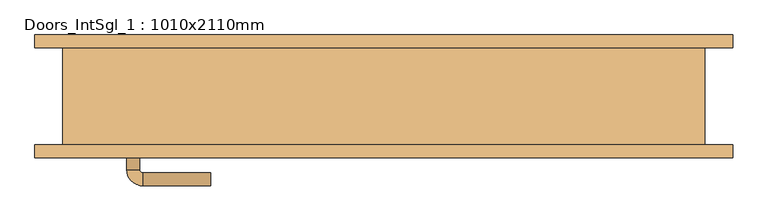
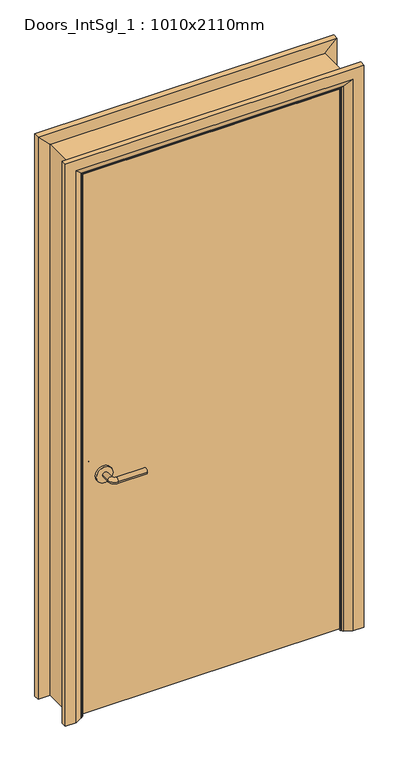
"""IFC4 building model written with IfcOpenShell, lengths in millimetres: door geometry, Doors_IntSgl_1 : 1010x2110mm."""

from ifc_helpers import new_model, si_unit, point, frame, frame_2d, origin, place, context, project, spatial, polyline, circle_curve, ellipse_curve, trimmed, segment, composite_curve, outline, extrude, faceted_brep, source, transform, mapped, element, save
from ifc_brep_helpers import plane_surface, cylinder_surface, revolved_surface, advanced_brep


def doors_intsgl_1_1010x2110mm_7920e6b8(model_context):
    return source(origin(), model_context, "Body", "SolidModel", [
        advanced_brep(
        [(-398.0, -29.0, 900.0), (-378.0, -29.0, 900.0), (-398.0, 1.0, 900.0), (-378.0, 1.0, 900.0), (-373.0, 6.0, 900.0), (-373.0, 26.0, 900.0), (-268.0, 26.0, 900.0), (-268.0, 6.0, 900.0)],
        [
            (0, 1, circle_curve(frame((-388.0, -29.0, 900.0), z_axis=(0.0, -1.0, 0.0), x_axis=(1.0, 0.0, 0.0)), 10.0)),
            (1, 0, circle_curve(frame((-388.0, -29.0, 900.0), z_axis=(0.0, -1.0, 0.0), x_axis=(1.0, 0.0, 0.0)), 10.0)),
            (0, 2),
            (2, 3, circle_curve(frame((-388.0, 1.0, 900.0), z_axis=(0.0, -1.0, 0.0), x_axis=(1.0, 0.0, 0.0)), 10.0)),
            (3, 1),
            (3, 2, circle_curve(frame((-388.0, 1.0, 900.0), z_axis=(0.0, -1.0, 0.0), x_axis=(1.0, 0.0, 0.0)), 10.0)),
            (4, 3, circle_curve(frame((-373.0, 1.0, 900.0), z_axis=(0.0, 0.0, 1.0), x_axis=(-1.0, 0.0, 0.0)), 5.0)),
            (2, 5, circle_curve(frame((-373.0, 1.0, 900.0), z_axis=(0.0, 0.0, -1.0), x_axis=(-1.0, 0.0, 0.0)), 25.0)),
            (5, 4, circle_curve(frame((-373.0, 16.0, 900.0), z_axis=(-1.0, 0.0, 0.0), x_axis=(0.0, -1.0, 0.0)), 10.0)),
            (4, 5, circle_curve(frame((-373.0, 16.0, 900.0), z_axis=(-1.0, 0.0, 0.0), x_axis=(0.0, -1.0, 0.0)), 10.0)),
            (6, 7, circle_curve(frame((-268.0, 16.0, 900.0), z_axis=(1.0, 0.0, 0.0), x_axis=(0.0, -1.0, 0.0)), 10.0)),
            (7, 6, circle_curve(frame((-268.0, 16.0, 900.0), z_axis=(1.0, 0.0, 0.0), x_axis=(0.0, -1.0, 0.0)), 10.0)),
            (5, 6),
            (7, 4),
        ],
        [
            plane_surface(frame((-388.0, -29.0, 900.0), z_axis=(0.0, -1.0, 0.0), x_axis=(0.0, 0.0, 1.0))),
            cylinder_surface(frame((-388.0, -29.0, 900.0), z_axis=(0.0, -1.0, 0.0), x_axis=(1.0, 0.0, 0.0)), 10.0),
            revolved_surface(trimmed(ellipse_curve(frame((-388.0, 1.0, 900.0), z_axis=(0.0, -1.0, 0.0), x_axis=(1.0, 0.0, 0.0)), 10.0, 10.0), [point((-398.0, 1.0, 900.0))], [point((-378.0, 1.0, 900.0))], True, "CARTESIAN"), (-373.0, 1.0, 900.0), (0.0, 0.0, -1.0)),
            revolved_surface(trimmed(ellipse_curve(frame((-388.0, 1.0, 900.0), z_axis=(0.0, -1.0, 0.0), x_axis=(1.0, 0.0, 0.0)), 10.0, 10.0), [point((-378.0, 1.0, 900.0))], [point((-398.0, 1.0, 900.0))], True, "CARTESIAN"), (-373.0, 1.0, 900.0), (0.0, 0.0, -1.0)),
            plane_surface(frame((-268.0, 16.0, 900.0), z_axis=(1.0, 0.0, 0.0), x_axis=(0.0, 0.0, 1.0))),
            cylinder_surface(frame((-373.0, 16.0, 900.0), z_axis=(-1.0, 0.0, 0.0), x_axis=(0.0, -1.0, 0.0)), 10.0),
        ],
        [
            (0, [[1, 2]]),
            (1, [[-1, 3, 4, 5]]),
            (1, [[-2, -5, 6, -3]]),
            (2, [[7, -4, 8, 9]]),
            (3, [[-8, -6, -7, 10]]),
            (4, [[11, 12]]),
            (5, [[-9, 13, -12, 14]]),
            (5, [[-10, -14, -11, -13]]),
        ],
    ),
        extrude(outline(composite_curve([segment(trimmed(circle_curve(frame_2d((900.0, -390.5)), 30.0), [point((900.0, -420.5))], [point((900.0, -360.5))], False, "CARTESIAN"), True, "CONTINUOUS"), segment(trimmed(circle_curve(frame_2d((900.0, -390.5)), 30.0), [point((900.0, -360.5))], [point((900.0, -420.5))], False, "CARTESIAN"), True, "CONTINUOUS")], self_intersect=False)), frame((0.0, -37.0, 0.0), z_axis=(0.0, 1.0, 0.0), x_axis=(0.0, 0.0, 1.0)), (0.0, 0.0, 1.0), 8.0),
        advanced_brep(
        [(-398.0, -83.0, 900.0), (-378.0, -83.0, 900.0), (-378.0, -113.0, 900.0), (-398.0, -113.0, 900.0), (-373.0, -118.0, 900.0), (-373.0, -138.0, 900.0), (-268.0, -138.0, 900.0), (-268.0, -118.0, 900.0)],
        [
            (0, 1, circle_curve(frame((-388.0, -83.0, 900.0), z_axis=(0.0, 1.0, 0.0), x_axis=(1.0, 0.0, 0.0)), 10.0)),
            (1, 0, circle_curve(frame((-388.0, -83.0, 900.0), z_axis=(0.0, 1.0, 0.0), x_axis=(1.0, 0.0, 0.0)), 10.0)),
            (1, 2),
            (2, 3, circle_curve(frame((-388.0, -113.0, 900.0), z_axis=(0.0, 1.0, 0.0), x_axis=(1.0, 0.0, 0.0)), 10.0)),
            (3, 0),
            (3, 2, circle_curve(frame((-388.0, -113.0, 900.0), z_axis=(0.0, 1.0, 0.0), x_axis=(1.0, 0.0, 0.0)), 10.0)),
            (4, 5, circle_curve(frame((-373.0, -128.0, 900.0), z_axis=(-1.0, 0.0, 0.0), x_axis=(0.0, 1.0, 0.0)), 10.0)),
            (5, 3, circle_curve(frame((-373.0, -113.0, 900.0), z_axis=(0.0, 0.0, -1.0), x_axis=(-1.0, 0.0, 0.0)), 25.0)),
            (2, 4, circle_curve(frame((-373.0, -113.0, 900.0), z_axis=(0.0, 0.0, 1.0), x_axis=(-1.0, 0.0, 0.0)), 5.0)),
            (5, 4, circle_curve(frame((-373.0, -128.0, 900.0), z_axis=(-1.0, 0.0, 0.0), x_axis=(0.0, 1.0, 0.0)), 10.0)),
            (6, 7, circle_curve(frame((-268.0, -128.0, 900.0), z_axis=(1.0, 0.0, 0.0), x_axis=(0.0, 1.0, 0.0)), 10.0)),
            (7, 6, circle_curve(frame((-268.0, -128.0, 900.0), z_axis=(1.0, 0.0, 0.0), x_axis=(0.0, 1.0, 0.0)), 10.0)),
            (4, 7),
            (6, 5),
        ],
        [
            plane_surface(frame((-388.0, -83.0, 900.0), z_axis=(0.0, 1.0, 0.0), x_axis=(0.0, 0.0, 1.0))),
            cylinder_surface(frame((-388.0, -83.0, 900.0), z_axis=(0.0, 1.0, 0.0), x_axis=(1.0, 0.0, 0.0)), 10.0),
            revolved_surface(trimmed(ellipse_curve(frame((-388.0, -113.0, 900.0), z_axis=(0.0, -1.0, 0.0), x_axis=(1.0, 0.0, 0.0)), 10.0, 10.0), [point((-398.0, -113.0, 900.0))], [point((-378.0, -113.0, 900.0))], True, "CARTESIAN"), (-373.0, -113.0, 900.0), (0.0, 0.0, -1.0)),
            revolved_surface(trimmed(ellipse_curve(frame((-388.0, -113.0, 900.0), z_axis=(0.0, -1.0, 0.0), x_axis=(1.0, 0.0, 0.0)), 10.0, 10.0), [point((-378.0, -113.0, 900.0))], [point((-398.0, -113.0, 900.0))], True, "CARTESIAN"), (-373.0, -113.0, 900.0), (0.0, 0.0, -1.0)),
            plane_surface(frame((-268.0, -128.0, 900.0), z_axis=(1.0, 0.0, 0.0), x_axis=(0.0, 0.0, 1.0))),
            cylinder_surface(frame((-373.0, -128.0, 900.0), z_axis=(-1.0, 0.0, 0.0), x_axis=(0.0, 1.0, 0.0)), 10.0),
        ],
        [
            (0, [[1, 2]]),
            (1, [[3, 4, 5, -2]]),
            (1, [[-5, 6, -3, -1]]),
            (2, [[7, 8, -4, 9]]),
            (3, [[10, -9, -6, -8]]),
            (4, [[11, 12]]),
            (5, [[13, -11, 14, -7]]),
            (5, [[-14, -12, -13, -10]]),
        ],
    ),
        extrude(outline(composite_curve([segment(trimmed(circle_curve(frame_2d((900.0, -390.5)), 30.0), [point((900.0, -420.5))], [point((900.0, -360.5))], False, "CARTESIAN"), True, "CONTINUOUS"), segment(trimmed(circle_curve(frame_2d((900.0, -390.5)), 30.0), [point((900.0, -360.5))], [point((900.0, -420.5))], False, "CARTESIAN"), True, "CONTINUOUS")], self_intersect=False)), frame((0.0, -83.0, 0.0), z_axis=(0.0, 1.0, 0.0), x_axis=(0.0, 0.0, 1.0)), (0.0, 0.0, 1.0), 8.0),
        extrude(outline(polyline([(463.0, -37.0), (463.0, -75.0), (-463.0, -75.0), (-463.0, -37.0), (463.0, -37.0)])), frame((0.0, 0.0, 8.0), z_axis=(0.0, 0.0, 1.0), x_axis=(1.0, 0.0, 0.0)), (0.0, 0.0, 1.0), 2060.0),
        advanced_brep(
        [(540.0, -95.0, 0.0), (500.0, -95.0, 0.0), (474.0, -81.0, 0.0), (470.0, -75.0, 0.0), (540.0, -75.0, 0.0), (540.0, -75.0, 2145.0), (540.0, -95.0, 2145.0), (470.0, -75.0, 2075.0), (-470.0, -75.0, 2075.0), (-470.0, -75.0, 0.0), (-540.0, -75.0, 0.0), (-540.0, -75.0, 2145.0), (474.0, -81.0, 2079.0), (500.0, -95.0, 2105.0), (-540.0, -95.0, 2145.0), (-540.0, -95.0, 0.0), (-500.0, -95.0, 0.0), (-500.0, -95.0, 2105.0), (-474.0, -81.0, 0.0), (-474.0, -81.0, 2079.0)],
        [
            (0, 1),
            (1, 2),
            (2, 3, circle_curve(frame((478.0, -74.0, 0.0), z_axis=(0.0, 0.0, -1.0), x_axis=(1.0, 0.0, 0.0)), 8.0622577)),
            (3, 4),
            (4, 0),
            (4, 5),
            (5, 6),
            (6, 0),
            (3, 7),
            (7, 8),
            (8, 9),
            (9, 10),
            (10, 11),
            (11, 5),
            (2, 12),
            (12, 7, ellipse_curve(frame((478.0, -74.0, 2083.0), z_axis=(0.7071067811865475, 0.0, -0.7071067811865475), x_axis=(-0.7071067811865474, 0.0, -0.7071067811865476)), 11.4017543, 8.0622577)),
            (1, 13),
            (13, 12),
            (6, 14),
            (14, 15),
            (15, 16),
            (16, 17),
            (17, 13),
            (10, 15),
            (14, 11),
            (9, 18, circle_curve(frame((-478.0, -74.0, 0.0), z_axis=(0.0, 0.0, -1.0), x_axis=(-1.0, 0.0, 0.0)), 8.0622577)),
            (18, 16),
            (19, 18),
            (8, 19, ellipse_curve(frame((-478.0, -74.0, 2083.0), z_axis=(-0.7071067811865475, 0.0, -0.7071067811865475), x_axis=(-0.7071067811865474, 0.0, 0.7071067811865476)), 11.4017543, 8.0622577)),
            (19, 17),
            (12, 19),
        ],
        [
            plane_surface(frame((470.0, -75.0, 0.0), z_axis=(0.0, 0.0, -1.0), x_axis=(0.0, 1.0, 0.0))),
            plane_surface(frame((540.0, -95.0, 0.0), z_axis=(1.0, 0.0, 0.0), x_axis=(0.0, 0.0, 1.0))),
            plane_surface(frame((540.0, -75.0, 0.0), z_axis=(0.0, 1.0, 0.0), x_axis=(0.0, 0.0, 1.0))),
            cylinder_surface(frame((478.0, -74.0, 0.0), z_axis=(0.0, 0.0, -1.0), x_axis=(1.0, 0.0, 0.0)), 8.0622577),
            plane_surface(frame((474.0, -81.0, 0.0), z_axis=(-0.4740998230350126, -0.880471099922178, 0.0), x_axis=(0.0, 0.0, 1.0))),
            plane_surface(frame((500.0, -95.0, 0.0), z_axis=(0.0, -1.0, 0.0), x_axis=(0.0, 0.0, 1.0))),
            plane_surface(frame((-540.0, -95.0, 2145.0), z_axis=(-1.0, 0.0, 0.0), x_axis=(0.0, 0.0, -1.0))),
            plane_surface(frame((-470.0, -75.0, 0.0), z_axis=(0.0, 0.0, -1.0), x_axis=(0.0, 1.0, 0.0))),
            cylinder_surface(frame((-478.0, -74.0, 2075.0), z_axis=(0.0, 0.0, 1.0), x_axis=(-1.0, 0.0, 0.0)), 8.0622577),
            plane_surface(frame((-474.0, -81.0, 2079.0), z_axis=(0.47409982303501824, -0.8804710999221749, 0.0), x_axis=(0.0, 0.0, -1.0))),
            plane_surface(frame((540.0, -95.0, 2145.0), z_axis=(0.0, 0.0, 1.0), x_axis=(-1.0, 0.0, 0.0))),
            cylinder_surface(frame((470.0, -74.0, 2083.0), z_axis=(1.0, 0.0, 0.0), x_axis=(0.0, 0.0, 1.0)), 8.0622577),
            plane_surface(frame((474.0, -81.0, 2079.0), z_axis=(0.0, -0.8804710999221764, -0.4740998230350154), x_axis=(-1.0, 0.0, 0.0))),
        ],
        [
            (0, [[1, 2, 3, 4, 5]]),
            (1, [[6, 7, 8, -5]]),
            (2, [[9, 10, 11, 12, 13, 14, -6, -4]]),
            (3, [[15, 16, -9, -3]]),
            (4, [[17, 18, -15, -2]]),
            (5, [[-8, 19, 20, 21, 22, 23, -17, -1]]),
            (6, [[-13, 24, -20, 25]]),
            (7, [[-24, -12, 26, 27, -21]]),
            (8, [[28, -26, -11, 29]]),
            (9, [[-22, -27, -28, 30]]),
            (10, [[-14, -25, -19, -7]]),
            (11, [[31, -29, -10, -16]]),
            (12, [[-23, -30, -31, -18]]),
        ],
    ),
        extrude(outline(polyline([(0.0, -446.0), (2051.0, -446.0), (2051.0, 446.0), (0.0, 446.0), (0.0, 465.0), (2070.0, 465.0), (2070.0, -465.0), (0.0, -465.0), (0.0, -446.0)])), frame((0.0, -35.0, 0.0), z_axis=(0.0, 1.0, 0.0), x_axis=(0.0, 0.0, 1.0)), (0.0, 0.0, 1.0), 32.0),
        advanced_brep(
        [(-540.0, 95.0, 0.0), (-500.0, 95.0, 0.0), (-474.0, 81.0, 0.0), (-470.0, 75.0, 0.0), (-540.0, 75.0, 0.0), (-540.0, 75.0, 2145.0), (-540.0, 95.0, 2145.0), (-470.0, 75.0, 2075.0), (-474.0, 81.0, 2079.0), (-500.0, 95.0, 2105.0), (540.0, 95.0, 0.0), (540.0, 75.0, 0.0), (470.0, 75.0, 0.0), (474.0, 81.0, 0.0), (500.0, 95.0, 0.0), (540.0, 95.0, 2145.0), (500.0, 95.0, 2105.0), (474.0, 81.0, 2079.0), (470.0, 75.0, 2075.0), (540.0, 75.0, 2145.0)],
        [
            (0, 1),
            (1, 2),
            (2, 3, circle_curve(frame((-478.0, 74.0, 0.0), z_axis=(0.0, 0.0, -1.0), x_axis=(-1.0, 0.0, 0.0)), 8.0622577)),
            (3, 4),
            (4, 0),
            (4, 5),
            (5, 6),
            (6, 0),
            (3, 7),
            (7, 5),
            (2, 8),
            (8, 7, ellipse_curve(frame((-478.0, 74.0, 2083.0), z_axis=(-0.7071067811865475, 0.0, -0.7071067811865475), x_axis=(0.7071067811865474, 0.0, -0.7071067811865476)), 11.4017543, 8.0622577)),
            (1, 9),
            (9, 8),
            (6, 9),
            (10, 11),
            (11, 12),
            (12, 13, circle_curve(frame((478.0, 74.0, 0.0), z_axis=(0.0, 0.0, -1.0), x_axis=(1.0, 0.0, 0.0)), 8.0622577)),
            (13, 14),
            (14, 10),
            (15, 10),
            (14, 16),
            (16, 15),
            (13, 17),
            (17, 16),
            (12, 18),
            (18, 17, ellipse_curve(frame((478.0, 74.0, 2083.0), z_axis=(0.7071067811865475, 0.0, -0.7071067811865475), x_axis=(0.7071067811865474, 0.0, 0.7071067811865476)), 11.4017543, 8.0622577)),
            (11, 19),
            (19, 18),
            (15, 19),
            (5, 19),
            (15, 6),
            (7, 18),
            (8, 17),
            (9, 16),
        ],
        [
            plane_surface(frame((-470.0, 147.8010989, 0.0), z_axis=(0.0, 0.0, -1.0), x_axis=(1.0, 0.0, 0.0))),
            plane_surface(frame((-540.0, 95.0, 0.0), z_axis=(-1.0, 0.0, 0.0), x_axis=(0.0, 0.0, 1.0))),
            plane_surface(frame((-540.0, 75.0, 0.0), z_axis=(0.0, -1.0, 0.0), x_axis=(0.0, 0.0, 1.0))),
            cylinder_surface(frame((-478.0, 74.0, 0.0), z_axis=(0.0, 0.0, -1.0), x_axis=(-1.0, 0.0, 0.0)), 8.0622577),
            plane_surface(frame((-474.0, 81.0, 0.0), z_axis=(0.4740998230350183, 0.8804710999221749, 0.0), x_axis=(0.0, 0.0, 1.0))),
            plane_surface(frame((-500.0, 95.0, 0.0), z_axis=(0.0, 1.0, 0.0), x_axis=(0.0, 0.0, 1.0))),
            plane_surface(frame((470.0, 147.8010989, 0.0), z_axis=(0.0, 0.0, -1.0), x_axis=(-1.0, 0.0, 0.0))),
            plane_surface(frame((500.0, 95.0, 2105.0), z_axis=(0.0, 1.0, 0.0), x_axis=(0.0, 0.0, -1.0))),
            plane_surface(frame((474.0, 81.0, 2079.0), z_axis=(-0.4740998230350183, 0.8804710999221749, 0.0), x_axis=(0.0, 0.0, -1.0))),
            cylinder_surface(frame((478.0, 74.0, 2075.0), z_axis=(0.0, 0.0, 1.0), x_axis=(1.0, 0.0, 0.0)), 8.0622577),
            plane_surface(frame((540.0, 75.0, 2145.0), z_axis=(0.0, -1.0, 0.0), x_axis=(0.0, 0.0, -1.0))),
            plane_surface(frame((540.0, 95.0, 2145.0), z_axis=(1.0, 0.0, 0.0), x_axis=(0.0, 0.0, -1.0))),
            plane_surface(frame((-540.0, 95.0, 2145.0), z_axis=(0.0, 0.0, 1.0), x_axis=(1.0, 0.0, 0.0))),
            plane_surface(frame((-540.0, 75.0, 2145.0), z_axis=(0.0, -1.0, 0.0), x_axis=(1.0, 0.0, 0.0))),
            cylinder_surface(frame((-470.0, 74.0, 2083.0), z_axis=(-1.0, 0.0, 0.0), x_axis=(0.0, 0.0, 1.0)), 8.0622577),
            plane_surface(frame((-474.0, 81.0, 2079.0), z_axis=(0.0, 0.8804710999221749, -0.4740998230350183), x_axis=(1.0, 0.0, 0.0))),
            plane_surface(frame((-500.0, 95.0, 2105.0), z_axis=(0.0, 1.0, 0.0), x_axis=(1.0, 0.0, 0.0))),
        ],
        [
            (0, [[1, 2, 3, 4, 5]]),
            (1, [[6, 7, 8, -5]]),
            (2, [[9, 10, -6, -4]]),
            (3, [[11, 12, -9, -3]]),
            (4, [[13, 14, -11, -2]]),
            (5, [[-8, 15, -13, -1]]),
            (6, [[16, 17, 18, 19, 20]]),
            (7, [[21, -20, 22, 23]]),
            (8, [[-22, -19, 24, 25]]),
            (9, [[-24, -18, 26, 27]]),
            (10, [[-26, -17, 28, 29]]),
            (11, [[-28, -16, -21, 30]]),
            (12, [[31, -30, 32, -7]]),
            (13, [[33, -29, -31, -10]]),
            (14, [[34, -27, -33, -12]]),
            (15, [[35, -25, -34, -14]]),
            (16, [[-32, -23, -35, -15]]),
        ],
    ),
        faceted_brep([(-465.0, -75.0, 0.0), (-497.0, -75.0, 0.0), (-497.0, 75.0, 0.0), (-465.0, 75.0, 0.0), (-465.0, 75.0, 2070.0), (-465.0, -75.0, 2070.0), (-497.0, 75.0, 2102.0), (-497.0, -75.0, 2102.0), (465.0, -75.0, 0.0), (465.0, 75.0, 0.0), (497.0, 75.0, 0.0), (497.0, -75.0, 0.0), (465.0, -75.0, 2070.0), (497.0, -75.0, 2102.0), (497.0, 75.0, 2102.0), (465.0, 75.0, 2070.0)], [[[0, 1, 2, 3]], [[3, 4, 5, 0]], [[2, 6, 4, 3]], [[1, 7, 6, 2]], [[0, 5, 7, 1]], [[8, 9, 10, 11]], [[12, 8, 11, 13]], [[13, 11, 10, 14]], [[14, 10, 9, 15]], [[15, 9, 8, 12]], [[4, 15, 12, 5]], [[6, 14, 15, 4]], [[7, 13, 14, 6]], [[5, 12, 13, 7]]]),
    ])


if __name__ == "__main__":
    model = new_model("IFC4")
    model_context = context("Model", 3, world=origin())
    ifc_project = project(units=[si_unit("LENGTHUNIT", "METRE", prefix="MILLI")], contexts=[model_context])
    site = spatial("IfcSite", under=ifc_project)
    building = spatial("IfcBuilding", under=site)
    placement = place(None, origin())
    doors_intsgl_1_1010x2110mm_shape = doors_intsgl_1_1010x2110mm_7920e6b8(model_context)
    element("IfcDoor", 1, ObjectType="Doors_IntSgl_1 : 1010x2110mm", at=placement, inside=building, context=model_context, shape_type="MappedRepresentation", body=[
        mapped(doors_intsgl_1_1010x2110mm_shape, transform((0.0, 0.0, 0.0), x_axis=(1.0, 0.0, 0.0), y_axis=(0.0, 1.0, 0.0), z_axis=(0.0, 0.0, 1.0))),
    ])
    save(model, "model.ifc")
